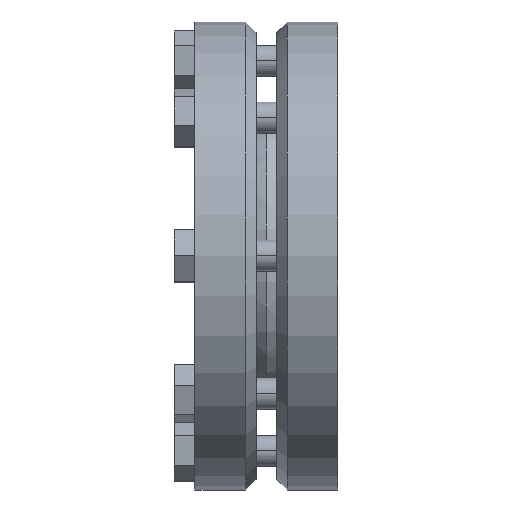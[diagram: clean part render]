
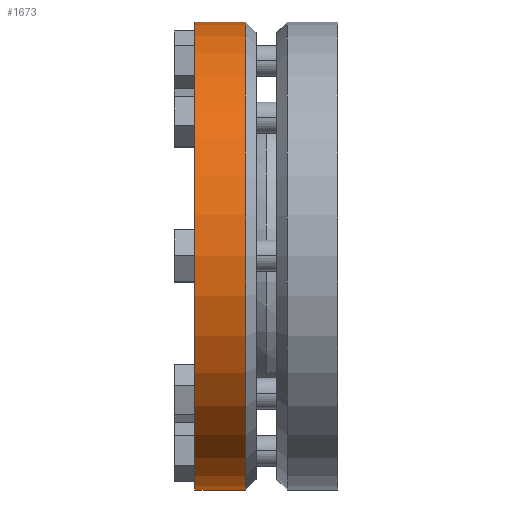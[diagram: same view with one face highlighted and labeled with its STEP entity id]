
A CAD part, top view. The second image highlights one B-rep face of the part: STEP entity #1673.
In plain terms, the highlighted cylindrical face has radius 45 mm (diameter 90 mm), a partial arc.
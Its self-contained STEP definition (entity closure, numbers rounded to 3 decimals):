
#222=CARTESIAN_POINT('',(-2.75,0.,0.));
#223=DIRECTION('',(1.,0.,0.));
#224=DIRECTION('',(0.,1.,0.));
#225=AXIS2_PLACEMENT_3D('',#222,#223,#224);
#397=DIRECTION('',(1.,0.,0.));
#398=VECTOR('',#397,9.75);
#399=CARTESIAN_POINT('',(-2.75,-45.,0.));
#400=LINE('',#399,#398);
#401=DIRECTION('',(1.,0.,0.));
#402=VECTOR('',#401,9.75);
#403=CARTESIAN_POINT('',(-2.75,45.,0.));
#404=LINE('',#403,#402);
#409=CARTESIAN_POINT('',(7.,0.,0.));
#410=DIRECTION('',(-1.,0.,0.));
#411=DIRECTION('',(0.,-1.,0.));
#412=AXIS2_PLACEMENT_3D('',#409,#410,#411);
#1205=CARTESIAN_POINT('',(-2.75,-45.,0.));
#1206=CARTESIAN_POINT('',(-2.75,45.,0.));
#1207=VERTEX_POINT('',#1205);
#1208=VERTEX_POINT('',#1206);
#1305=CARTESIAN_POINT('',(7.,45.,0.));
#1306=VERTEX_POINT('',#1305);
#1307=CARTESIAN_POINT('',(7.,-45.,0.));
#1308=VERTEX_POINT('',#1307);
#1661=CARTESIAN_POINT('',(26.125,0.,0.));
#1662=DIRECTION('',(-1.,0.,0.));
#1663=DIRECTION('',(0.,1.,0.));
#1664=AXIS2_PLACEMENT_3D('',#1661,#1662,#1663);
#1665=CYLINDRICAL_SURFACE('',#1664,45.);
#1666=ORIENTED_EDGE('',*,*,#1651,.T.);
#1668=ORIENTED_EDGE('',*,*,#1667,.F.);
#1669=ORIENTED_EDGE('',*,*,#1654,.F.);
#1670=ORIENTED_EDGE('',*,*,#1524,.F.);
#1671=EDGE_LOOP('',(#1666,#1668,#1669,#1670));
#1672=FACE_OUTER_BOUND('',#1671,.F.);
#1673=ADVANCED_FACE('',(#1672),#1665,.T.);
#226=CIRCLE('',#225,45.);
#413=CIRCLE('',#412,45.);
#1524=EDGE_CURVE('',#1208,#1207,#226,.T.);
#1651=EDGE_CURVE('',#1208,#1306,#404,.T.);
#1654=EDGE_CURVE('',#1207,#1308,#400,.T.);
#1667=EDGE_CURVE('',#1308,#1306,#413,.T.);
